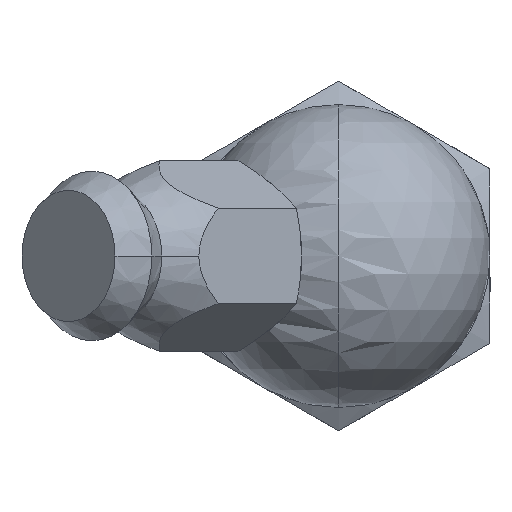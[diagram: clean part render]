
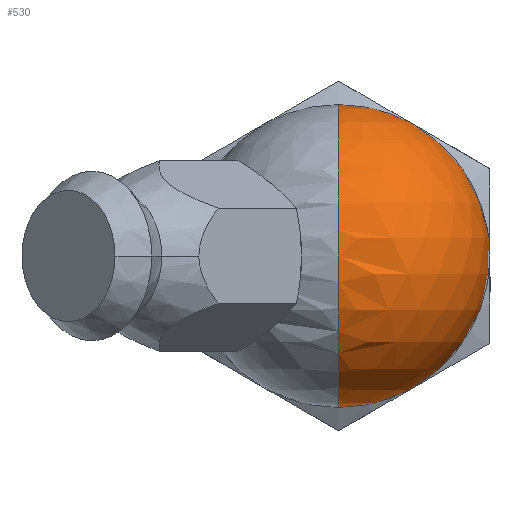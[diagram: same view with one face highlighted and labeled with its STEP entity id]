
A CAD part, left-side view. The second image highlights one B-rep face of the part: STEP entity #530.
In plain terms, the highlighted spherical face has radius 5.5 mm.
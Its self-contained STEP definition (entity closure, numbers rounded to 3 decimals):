
#358 = VERTEX_POINT( '', #875 );
#388 = EDGE_CURVE( '', #358, #630, #907, .T. );
#460 = VERTEX_POINT( '', #991 );
#494 = EDGE_CURVE( '', #630, #542, #1026, .T. );
#530 = ADVANCED_FACE( '', ( #1066 ), #1067, .T. );
#542 = VERTEX_POINT( '', #1082 );
#630 = VERTEX_POINT( '', #1182 );
#704 = EDGE_CURVE( '', #542, #460, #1266, .T. );
#734 = EDGE_CURVE( '', #460, #358, #1298, .T. );
#875 = CARTESIAN_POINT( '', ( -9.5, 0., 5.5 ) );
#907 = CIRCLE( '', #1574, 5.5 );
#991 = CARTESIAN_POINT( '', ( -5.67, 0., 3.947 ) );
#1026 = CIRCLE( '', #1822, 5.5 );
#1066 = FACE_OUTER_BOUND( '', #1906, .T. );
#1067 = SPHERICAL_SURFACE( '', #1907, 5.5 );
#1082 = CARTESIAN_POINT( '', ( -5.67, 0., -3.947 ) );
#1182 = CARTESIAN_POINT( '', ( -9.5, 0., -5.5 ) );
#1266 = CIRCLE( '', #2301, 3.947 );
#1298 = CIRCLE( '', #2367, 5.5 );
#1574 = AXIS2_PLACEMENT_3D( '', #2564, #2565, #2566 );
#1822 = AXIS2_PLACEMENT_3D( '', #2703, #2704, #2705 );
#1906 = EDGE_LOOP( '', ( #2751, #2752, #2753, #2754 ) );
#1907 = AXIS2_PLACEMENT_3D( '', #2755, #2756, #2757 );
#2301 = AXIS2_PLACEMENT_3D( '', #2991, #2992, #2993 );
#2367 = AXIS2_PLACEMENT_3D( '', #3021, #3022, #3023 );
#2564 = CARTESIAN_POINT( '', ( -9.5, 0., 0. ) );
#2565 = DIRECTION( '', ( 0., -1., 0. ) );
#2566 = DIRECTION( '', ( 0., 0., 1. ) );
#2703 = CARTESIAN_POINT( '', ( -9.5, 0., 0. ) );
#2704 = DIRECTION( '', ( 0., -1., 0. ) );
#2705 = DIRECTION( '', ( 0., 0., 1. ) );
#2751 = ORIENTED_EDGE( '', *, *, #734, .T. );
#2752 = ORIENTED_EDGE( '', *, *, #388, .T. );
#2753 = ORIENTED_EDGE( '', *, *, #494, .T. );
#2754 = ORIENTED_EDGE( '', *, *, #704, .T. );
#2755 = CARTESIAN_POINT( '', ( -9.5, 0., 0. ) );
#2756 = DIRECTION( '', ( 0., 0., 1. ) );
#2757 = DIRECTION( '', ( 1., 0., 0. ) );
#2991 = CARTESIAN_POINT( '', ( -5.67, 0., 0. ) );
#2992 = DIRECTION( '', ( -1., 0., 0. ) );
#2993 = DIRECTION( '', ( 0., 1., 0. ) );
#3021 = CARTESIAN_POINT( '', ( -9.5, 0., 0. ) );
#3022 = DIRECTION( '', ( 0., -1., 0. ) );
#3023 = DIRECTION( '', ( 0., 0., 1. ) );
